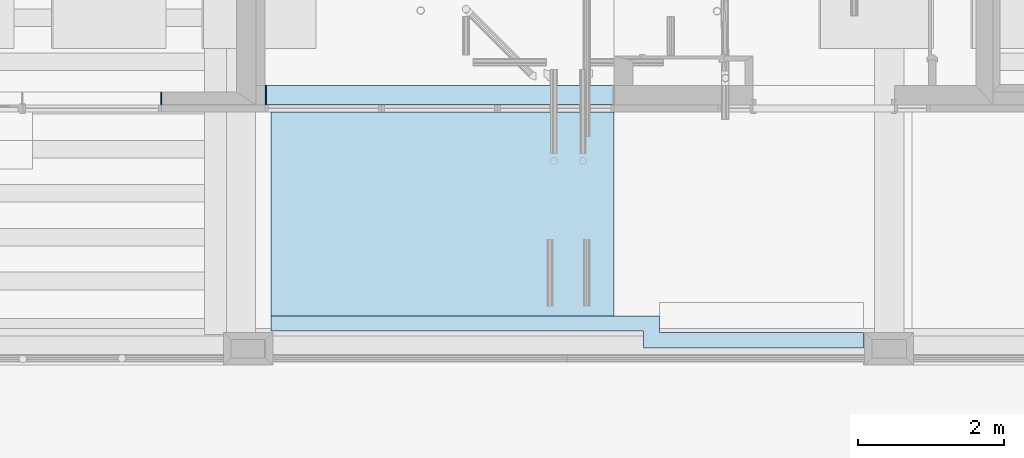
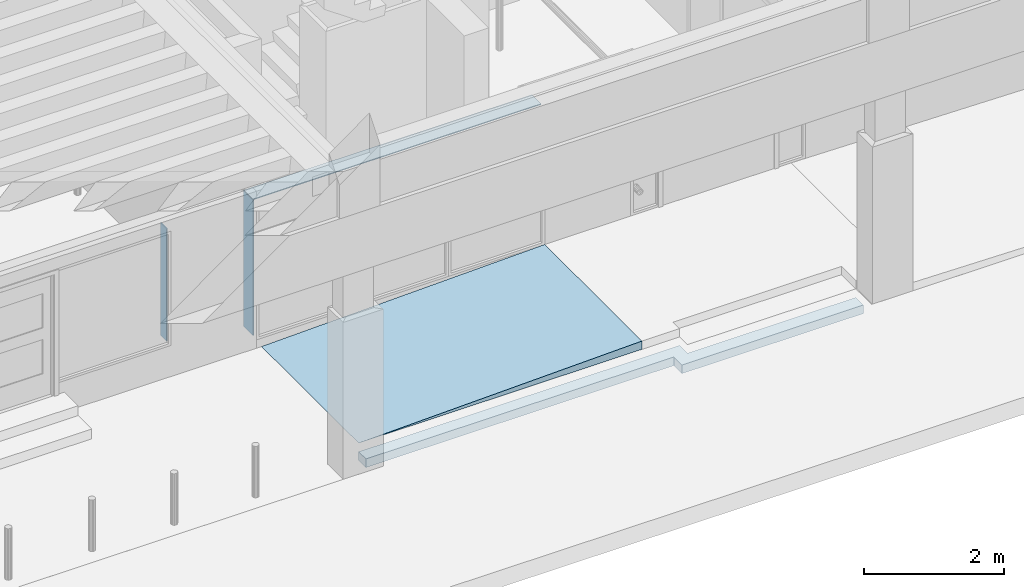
# One storey, part 16 of 108: 5 slabs.
"""IFC2X3 building model written with IfcOpenShell, lengths in metres."""

from ifc_helpers import new_model, entity, si_unit, converted_unit, derived_unit, money_unit, direction, origin_with_axes, place, context, subcontext, project, spatial, faceted_brep, material, type_object, element, save


model = new_model("IFC2X3")

# Units and contexts
model_context = context("Model", 3, precision=1e-05, world=origin_with_axes(), true_north=direction((0.0, 1.0)))
body_context = subcontext(model_context, "Body", "Model", "MODEL_VIEW", scale=1.0)
ifc_project = project(units=[si_unit("LENGTHUNIT", "METRE"), si_unit("AREAUNIT", "SQUARE_METRE"), si_unit("VOLUMEUNIT", "CUBIC_METRE"), si_unit("ABSORBEDDOSEUNIT", "GRAY"), si_unit("AMOUNTOFSUBSTANCEUNIT", "MOLE"), si_unit("DOSEEQUIVALENTUNIT", "SIEVERT"), si_unit("ELECTRICCAPACITANCEUNIT", "FARAD"), si_unit("ELECTRICCHARGEUNIT", "COULOMB"), si_unit("ELECTRICCONDUCTANCEUNIT", "SIEMENS"), si_unit("ELECTRICCURRENTUNIT", "AMPERE"), si_unit("ELECTRICRESISTANCEUNIT", "OHM"), si_unit("ELECTRICVOLTAGEUNIT", "VOLT"), si_unit("ENERGYUNIT", "JOULE"), si_unit("FORCEUNIT", "NEWTON"), si_unit("FREQUENCYUNIT", "HERTZ"), si_unit("ILLUMINANCEUNIT", "LUX"), si_unit("INDUCTANCEUNIT", "HENRY"), si_unit("LUMINOUSFLUXUNIT", "LUMEN"), si_unit("LUMINOUSINTENSITYUNIT", "CANDELA"), si_unit("MAGNETICFLUXDENSITYUNIT", "TESLA"), si_unit("MAGNETICFLUXUNIT", "WEBER"), si_unit("MASSUNIT", "GRAM"), converted_unit("PLANEANGLEUNIT", "degree", entity("IfcReal", 0.0174532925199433), si_unit("PLANEANGLEUNIT", "RADIAN"), dimensions=[0, 0, 0, 0, 0, 0, 0]), si_unit("POWERUNIT", "WATT"), si_unit("PRESSUREUNIT", "PASCAL"), si_unit("RADIOACTIVITYUNIT", "BECQUEREL"), si_unit("SOLIDANGLEUNIT", "STERADIAN"), si_unit("THERMODYNAMICTEMPERATUREUNIT", "KELVIN"), si_unit("TIMEUNIT", "SECOND"), derived_unit("ACCELERATIONUNIT", [(si_unit("LENGTHUNIT", "METRE"), 1), (si_unit("TIMEUNIT", "SECOND"), -2)]), derived_unit("ANGULARVELOCITYUNIT", [(converted_unit("PLANEANGLEUNIT", "degree", entity("IfcReal", 0.0174532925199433), si_unit("PLANEANGLEUNIT", "RADIAN"), dimensions=[0, 0, 0, 0, 0, 0, 0]), 1), (si_unit("TIMEUNIT", "SECOND"), -1)]), derived_unit("CURVATUREUNIT", [(converted_unit("PLANEANGLEUNIT", "degree", entity("IfcReal", 0.0174532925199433), si_unit("PLANEANGLEUNIT", "RADIAN"), dimensions=[0, 0, 0, 0, 0, 0, 0]), 1), (si_unit("LENGTHUNIT", "METRE"), -1)]), derived_unit("DYNAMICVISCOSITYUNIT", [(si_unit("PRESSUREUNIT", "PASCAL"), 1), (si_unit("TIMEUNIT", "SECOND"), 1)]), derived_unit("HEATFLUXDENSITYUNIT", [(si_unit("POWERUNIT", "WATT"), 1), (si_unit("LENGTHUNIT", "METRE"), -2)]), derived_unit("HEATINGVALUEUNIT", [(si_unit("ENERGYUNIT", "JOULE"), 1), (si_unit("MASSUNIT", "GRAM"), -1)]), derived_unit("INTEGERCOUNTRATEUNIT", [(si_unit("TIMEUNIT", "SECOND"), -1)]), derived_unit("IONCONCENTRATIONUNIT", [(si_unit("MASSUNIT", "GRAM"), 1), (si_unit("VOLUMEUNIT", "CUBIC_METRE"), -1)]), derived_unit("ISOTHERMALMOISTURECAPACITYUNIT", [(si_unit("VOLUMEUNIT", "CUBIC_METRE"), 1), (si_unit("MASSUNIT", "GRAM"), -1)]), derived_unit("KINEMATICVISCOSITYUNIT", [(si_unit("AREAUNIT", "SQUARE_METRE"), 1), (si_unit("TIMEUNIT", "SECOND"), -1)]), derived_unit("LINEARFORCEUNIT", [(si_unit("FORCEUNIT", "NEWTON"), 1), (si_unit("LENGTHUNIT", "METRE"), -1)]), derived_unit("LINEARMOMENTUNIT", [(si_unit("FORCEUNIT", "NEWTON"), 1), (si_unit("LENGTHUNIT", "METRE"), -1)]), derived_unit("LINEARSTIFFNESSUNIT", [(si_unit("FORCEUNIT", "NEWTON"), 1), (si_unit("LENGTHUNIT", "METRE"), -1)]), derived_unit("LINEARVELOCITYUNIT", [(si_unit("LENGTHUNIT", "METRE"), 1), (si_unit("TIMEUNIT", "SECOND"), -1)]), derived_unit("LUMINOUSINTENSITYDISTRIBUTIONUNIT", [(si_unit("LUMINOUSINTENSITYUNIT", "CANDELA"), 1), (si_unit("LUMINOUSFLUXUNIT", "LUMEN"), -1)]), derived_unit("MASSDENSITYUNIT", [(si_unit("MASSUNIT", "GRAM"), 1), (si_unit("VOLUMEUNIT", "CUBIC_METRE"), -1)]), derived_unit("MASSFLOWRATEUNIT", [(si_unit("MASSUNIT", "GRAM"), 1), (si_unit("TIMEUNIT", "SECOND"), -1)]), derived_unit("MASSPERLENGTHUNIT", [(si_unit("MASSUNIT", "GRAM"), 1), (si_unit("LENGTHUNIT", "METRE"), -1)]), derived_unit("MODULUSOFELASTICITYUNIT", [(si_unit("FORCEUNIT", "NEWTON"), 1), (si_unit("AREAUNIT", "SQUARE_METRE"), -1)]), derived_unit("MODULUSOFLINEARSUBGRADEREACTIONUNIT", [(si_unit("FORCEUNIT", "NEWTON"), 1), (si_unit("LENGTHUNIT", "METRE"), -2)]), derived_unit("MODULUSOFROTATIONALSUBGRADEREACTIONUNIT", [(si_unit("FORCEUNIT", "NEWTON"), 1), (si_unit("LENGTHUNIT", "METRE"), 1)]), derived_unit("MODULUSOFSUBGRADEREACTIONUNIT", [(si_unit("FORCEUNIT", "NEWTON"), 1), (si_unit("VOLUMEUNIT", "CUBIC_METRE"), -1)]), derived_unit("MOISTUREDIFFUSIVITYUNIT", [(si_unit("VOLUMEUNIT", "CUBIC_METRE"), 1), (si_unit("TIMEUNIT", "SECOND"), -1)]), derived_unit("MOLECULARWEIGHTUNIT", [(si_unit("MASSUNIT", "GRAM"), 1), (si_unit("AMOUNTOFSUBSTANCEUNIT", "MOLE"), -1)]), derived_unit("PLANARFORCEUNIT", [(si_unit("FORCEUNIT", "NEWTON"), 1), (si_unit("LENGTHUNIT", "METRE"), -2)]), derived_unit("ROTATIONALFREQUENCYUNIT", [(si_unit("TIMEUNIT", "SECOND"), -1)]), derived_unit("ROTATIONALMASSUNIT", [(si_unit("MASSUNIT", "GRAM"), 1), (si_unit("LENGTHUNIT", "METRE"), 2)]), derived_unit("ROTATIONALSTIFFNESSUNIT", [(si_unit("FORCEUNIT", "NEWTON"), 1), (si_unit("LENGTHUNIT", "METRE"), 1), (converted_unit("PLANEANGLEUNIT", "degree", entity("IfcReal", 0.0174532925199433), si_unit("PLANEANGLEUNIT", "RADIAN"), dimensions=[0, 0, 0, 0, 0, 0, 0]), -1)]), derived_unit("SECTIONAREAINTEGRALUNIT", [(si_unit("LENGTHUNIT", "METRE"), 5)]), derived_unit("SECTIONMODULUSUNIT", [(si_unit("LENGTHUNIT", "METRE"), 3)]), derived_unit("SHEARMODULUSUNIT", [(si_unit("FORCEUNIT", "NEWTON"), 1), (si_unit("AREAUNIT", "SQUARE_METRE"), -1)]), derived_unit("SOUNDPOWERUNIT", [(si_unit("ENERGYUNIT", "JOULE"), 1), (si_unit("TIMEUNIT", "SECOND"), -1)]), derived_unit("SPECIFICHEATCAPACITYUNIT", [(si_unit("FORCEUNIT", "NEWTON"), 1), (si_unit("MASSUNIT", "GRAM"), -1), (si_unit("THERMODYNAMICTEMPERATUREUNIT", "KELVIN"), -1)]), derived_unit("TEMPERATUREGRADIENTUNIT", [(si_unit("THERMODYNAMICTEMPERATUREUNIT", "KELVIN"), 1), (si_unit("LENGTHUNIT", "METRE"), -1)]), derived_unit("THERMALADMITTANCEUNIT", [(si_unit("POWERUNIT", "WATT"), 1), (si_unit("AREAUNIT", "SQUARE_METRE"), -1), (si_unit("THERMODYNAMICTEMPERATUREUNIT", "KELVIN"), -1)]), derived_unit("THERMALCONDUCTANCEUNIT", [(si_unit("POWERUNIT", "WATT"), 1), (si_unit("LENGTHUNIT", "METRE"), -1), (si_unit("THERMODYNAMICTEMPERATUREUNIT", "KELVIN"), -1)]), derived_unit("THERMALEXPANSIONCOEFFICIENTUNIT", [(si_unit("THERMODYNAMICTEMPERATUREUNIT", "KELVIN"), -1)]), derived_unit("THERMALRESISTANCEUNIT", [(si_unit("AREAUNIT", "SQUARE_METRE"), 1), (si_unit("POWERUNIT", "WATT"), -1)]), derived_unit("THERMALTRANSMITTANCEUNIT", [(si_unit("POWERUNIT", "WATT"), 1), (si_unit("AREAUNIT", "SQUARE_METRE"), -1), (si_unit("THERMODYNAMICTEMPERATUREUNIT", "KELVIN"), -1)]), derived_unit("TORQUEUNIT", [(si_unit("FORCEUNIT", "NEWTON"), 1), (si_unit("LENGTHUNIT", "METRE"), 1)]), derived_unit("VAPORPERMEABILITYUNIT", [(si_unit("MASSUNIT", "GRAM"), 1), (si_unit("TIMEUNIT", "SECOND"), -1)]), derived_unit("VOLUMETRICFLOWRATEUNIT", [(si_unit("VOLUMEUNIT", "CUBIC_METRE"), 1), (si_unit("TIMEUNIT", "SECOND"), -1)]), derived_unit("WARPINGCONSTANTUNIT", [(si_unit("LENGTHUNIT", "METRE"), 6)]), derived_unit("WARPINGMOMENTUNIT", [(si_unit("FORCEUNIT", "NEWTON"), 1), (si_unit("LENGTHUNIT", "METRE"), 2)]), money_unit("GBP")], contexts=[model_context])

# Site, building, storey
site_placement = place(None, origin_with_axes())
site = spatial("IfcSite", under=ifc_project, at=site_placement, Name="Site", CompositionType="ELEMENT")
building_placement = place(site_placement, origin_with_axes())
building = spatial("IfcBuilding", under=site, at=building_placement, Name="Building01", CompositionType="ELEMENT")
storey_placement = place(building_placement, origin_with_axes())
storey = spatial("IfcBuildingStorey", under=building, at=storey_placement, Name="GF", CompositionType="ELEMENT", Elevation=0.0)

# Slabs
ifc_material = material(Name="A_BSUK_Slabs")
slab_type = type_object("IfcSlabType", Name="A-FloorsSlabs A_BSUK_Slabs", PredefinedType="FLOOR")
placement = place(storey_placement, origin_with_axes())
element("IfcSlab", 1, at=placement, inside=storey, type_object=slab_type, material=ifc_material, Name="A-FloorsSlabs A_BSUK_Slabs", ObjectType="CompoundSlabLeaf", context=body_context, shape_type="Brep", body=[
    faceted_brep([(9.437557, 0.463994, -0.445), (9.437557, 0.463994, -0.295), (9.437557, 0.672774, -0.295), (9.437557, 0.672774, -0.445), (14.529762, 0.463994, -0.445), (14.529762, 0.463994, -0.295), (14.529762, 0.231664, -0.445), (14.529762, 0.231664, -0.295), (17.533204, 0.231664, -0.445), (17.533204, 0.231664, -0.295), (17.533212, 0.449009, -0.445), (17.533212, 0.449009, -0.295), (14.745613, 0.449113, -0.445), (14.745613, 0.449113, -0.295), (14.745621, 0.672774, -0.445), (14.745621, 0.672774, -0.295)], [[[0, 1, 2, 3]], [[4, 5, 1, 0]], [[6, 7, 5, 4]], [[8, 9, 7, 6]], [[10, 11, 9, 8]], [[12, 13, 11, 10]], [[14, 15, 13, 12]], [[3, 2, 15, 14]], [[1, 5, 7, 9, 11, 13, 15, 2]], [[3, 14, 12, 10, 8, 6, 4, 0]]]),
])
element("IfcSlab", 2, at=placement, inside=storey, type_object=slab_type, material=ifc_material, Name="A-FloorsSlabs A_BSUK_Slabs", ObjectType="CompoundSlabLeaf", context=body_context, shape_type="Brep", body=[
    faceted_brep([(7.941681, 3.559009, 0.413), (7.926681, 3.559009, 0.413), (7.926681, 3.733332, 0.413), (7.941681, 3.733332, 0.413), (7.941681, 3.55892, 2.383), (7.926681, 3.55892, 2.383), (7.941681, 3.733208, 2.383), (7.926681, 3.733208, 2.383)], [[[0, 1, 2, 3]], [[4, 5, 1, 0]], [[6, 7, 5, 4]], [[3, 2, 7, 6]], [[1, 5, 7, 2]], [[3, 6, 4, 0]]]),
])
element("IfcSlab", 3, at=placement, inside=storey, type_object=slab_type, material=ifc_material, Name="A-FloorsSlabs A_BSUK_Slabs", ObjectType="CompoundSlabLeaf", context=body_context, shape_type="Brep", body=[
    faceted_brep([(14.124099, 0.672774, -0.145), (14.124099, 3.458774, -0.145), (14.124099, 3.458774, 0.0), (14.124099, 0.672774, 0.0), (9.437531, 0.672774, -0.145), (9.437531, 3.458774, -0.145)], [[[0, 1, 2, 3]], [[4, 5, 1, 0]], [[3, 2, 5, 4]], [[1, 5, 2]], [[3, 4, 0]]]),
])
element("IfcSlab", 4, at=placement, inside=storey, type_object=slab_type, material=ifc_material, Name="A-FloorsSlabs A_BSUK_Slabs", ObjectType="CompoundSlabLeaf", context=body_context, shape_type="Brep", body=[
    faceted_brep([(9.354099, 3.559352, 2.385), (9.354099, 3.559352, 2.4), (9.354099, 3.823962, 2.4), (9.354099, 3.823962, 2.385), (14.124099, 3.559352, 2.385), (14.124099, 3.559352, 2.4), (14.124099, 3.823962, 2.385), (14.124099, 3.823962, 2.4)], [[[0, 1, 2, 3]], [[4, 5, 1, 0]], [[6, 7, 5, 4]], [[3, 2, 7, 6]], [[1, 5, 7, 2]], [[3, 6, 4, 0]]]),
])
element("IfcSlab", 5, at=placement, inside=storey, type_object=slab_type, material=ifc_material, Name="A-FloorsSlabs A_BSUK_Slabs", ObjectType="CompoundSlabLeaf", context=body_context, shape_type="Brep", body=[
    faceted_brep([(9.369099, 3.559352, 0.015), (9.354099, 3.559352, 0.015), (9.354099, 3.823962, 0.015), (9.369099, 3.823962, 0.015), (9.369099, 3.559262, 2.385), (9.354099, 3.559262, 2.385), (9.369099, 3.823838, 2.385), (9.354099, 3.823838, 2.385)], [[[0, 1, 2, 3]], [[4, 5, 1, 0]], [[6, 7, 5, 4]], [[3, 2, 7, 6]], [[1, 5, 7, 2]], [[3, 6, 4, 0]]]),
])

save(model, "model.ifc")
